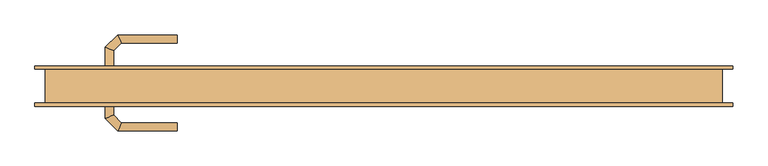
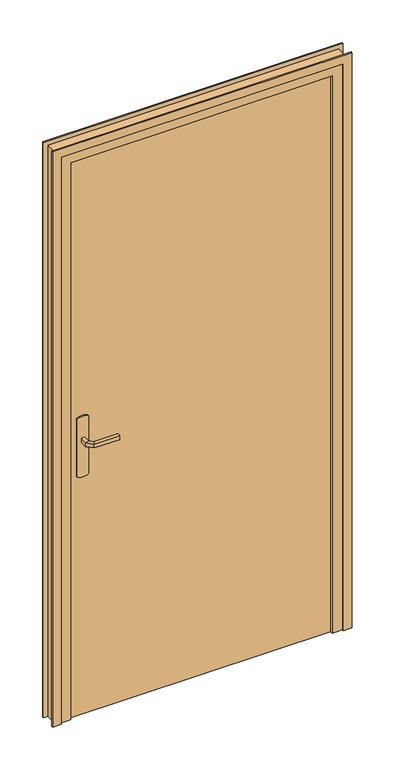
"""IFC4 building model written with IfcOpenShell, lengths in millimetres: door geometry, @_Int. Simple : @_PP (0.93m x 2.04m)."""

import ifcopenshell
import ifcopenshell.guid

model = None  # the IFC model being written
_history = None  # IfcOwnerHistory: only IFC2X3 demands one
_inside = {}  # id of a spatial element -> (the spatial element, [elements in it])
_under = {}  # id of a project, library or spatial element -> (it, [spatial elements below it])
_declared = {}  # id of a project -> (the project, [libraries it declares])
_typed = {}  # id of a type object -> (the type object, [elements of that type])
_made_of = {}  # id of a material, layer set ... -> (it, [elements and type objects made of it])


def new_model(schema):
    """Start an empty IFC model of exactly this schema.

    Asked for "IFC4X3", IfcOpenShell would pick the latest addendum, in which some entities
    have other attributes; the version numbers below select the first issue.
    IFC2X3 requires an IfcOwnerHistory on every rooted entity: one is made here for all.
    """
    global model, _history
    if schema == "IFC4X3":
        model = ifcopenshell.file(schema_version=(4, 3, 0, 0))
    else:
        model = ifcopenshell.file(schema=schema)
    _inside.clear()
    _under.clear()
    _declared.clear()
    _typed.clear()
    _made_of.clear()
    _history = None
    if model.schema == "IFC2X3":
        org = make("IfcOrganization", Name="unknown")
        user = make(
            "IfcPersonAndOrganization",
            ThePerson=make("IfcPerson", FamilyName="unknown"),
            TheOrganization=org,
        )
        app = make(
            "IfcApplication",
            ApplicationDeveloper=org,
            Version="unknown",
            ApplicationFullName="unknown",
            ApplicationIdentifier="unknown",
        )
        _history = make(
            "IfcOwnerHistory",
            OwningUser=user,
            OwningApplication=app,
            ChangeAction="ADDED",
            CreationDate=0,
        )
    return model


def make(cls, **values):
    """One entity of the class cls with the attributes given. An attribute that is None is left unset."""
    return model.create_entity(
        cls, **{name: value for name, value in values.items() if value is not None}
    )


def rooted(cls, **values):
    """An entity with a GlobalId (a new one), such as an element, a storey or a relation."""
    return make(cls, GlobalId=ifcopenshell.guid.new(), OwnerHistory=_history, **values)


def si_unit(unit_type, name, prefix=None):
    """IfcSIUnit, for example si_unit("LENGTHUNIT", "METRE", prefix="MILLI")."""
    return make("IfcSIUnit", UnitType=unit_type, Prefix=prefix, Name=name)


def assignment(units):
    """IfcUnitAssignment: the units of a project."""
    return None if units is None else make("IfcUnitAssignment", Units=units)


def point(xyz):
    """IfcCartesianPoint."""
    return None if xyz is None else make("IfcCartesianPoint", Coordinates=xyz)


def direction(xyz):
    """IfcDirection."""
    return None if xyz is None else make("IfcDirection", DirectionRatios=xyz)


def frame(location, z_axis=None, x_axis=None):
    """IfcAxis2Placement3D, a coordinate frame: its origin and axes. An axis left out is left unset."""
    return make(
        "IfcAxis2Placement3D",
        Location=point(location),
        Axis=direction(z_axis),
        RefDirection=direction(x_axis),
    )


def frame_2d(location, x_axis=None):
    """IfcAxis2Placement2D, a coordinate frame in the plane: its origin and x axis."""
    return make(
        "IfcAxis2Placement2D", Location=point(location), RefDirection=direction(x_axis)
    )


def origin():
    """The frame at (0, 0, 0) with its axes left unset."""
    return frame((0.0, 0.0, 0.0))


def origin_with_axes():
    """The frame at (0, 0, 0) with the z axis (0, 0, 1) and the x axis (1, 0, 0) written out."""
    return frame((0.0, 0.0, 0.0), z_axis=(0.0, 0.0, 1.0), x_axis=(1.0, 0.0, 0.0))


def place(relative_to, where):
    """IfcLocalPlacement: puts the frame where relative to a parent placement (None: the world)."""
    return make(
        "IfcLocalPlacement", PlacementRelTo=relative_to, RelativePlacement=where
    )


def context(
    kind, dimensions, precision=None, world=None, true_north=None, identifier=None
):
    """IfcGeometricRepresentationContext, for example the 3D "Model" context."""
    return make(
        "IfcGeometricRepresentationContext",
        ContextIdentifier=identifier,
        ContextType=kind,
        CoordinateSpaceDimension=dimensions,
        Precision=precision,
        WorldCoordinateSystem=world,
        TrueNorth=true_north,
    )


def project(units=None, contexts=None):
    """IfcProject with its units and contexts."""
    return rooted(
        "IfcProject",
        Name="project",
        RepresentationContexts=contexts,
        UnitsInContext=assignment(units),
    )


def spatial(cls, under=None, at=None, **own):
    """A site, building, storey or space (cls), placed at a placement, below another one or the project."""
    s = rooted(cls, ObjectPlacement=at, **own)
    if under is not None:
        _under.setdefault(under.id(), (under, []))[1].append(s)
    return s


def polyline(points):
    """IfcPolyline through the points."""
    return make("IfcPolyline", Points=[point(p) for p in points])


def circle_curve(where, radius):
    """IfcCircle in the frame where."""
    return make("IfcCircle", Position=where, Radius=radius)


def ellipse_curve(where, semi_axis1, semi_axis2):
    """IfcEllipse in the frame where."""
    return make(
        "IfcEllipse", Position=where, SemiAxis1=semi_axis1, SemiAxis2=semi_axis2
    )


def trimmed(basis, trim1, trim2, sense, master):
    """IfcTrimmedCurve: the piece of a basis curve between two trims."""
    return make(
        "IfcTrimmedCurve",
        BasisCurve=basis,
        Trim1=trim1,
        Trim2=trim2,
        SenseAgreement=sense,
        MasterRepresentation=master,
    )


def segment(curve, same_sense, transition):
    """IfcCompositeCurveSegment."""
    return make(
        "IfcCompositeCurveSegment",
        Transition=transition,
        SameSense=same_sense,
        ParentCurve=curve,
    )


def composite_curve(segments, self_intersect=None):
    """IfcCompositeCurve: segments joined end to end."""
    return make("IfcCompositeCurve", Segments=segments, SelfIntersect=self_intersect)


def outline(outer, holes=None, kind="AREA"):
    """IfcArbitraryClosedProfileDef: a profile drawn as a closed curve; with holes, ...WithVoids."""
    if holes is None:
        return make("IfcArbitraryClosedProfileDef", ProfileType=kind, OuterCurve=outer)
    return make(
        "IfcArbitraryProfileDefWithVoids",
        ProfileType=kind,
        OuterCurve=outer,
        InnerCurves=holes,
    )


def extrude(swept, where, along, depth):
    """IfcExtrudedAreaSolid: the profile swept, set in the frame where, extruded along a direction by depth."""
    return make(
        "IfcExtrudedAreaSolid",
        SweptArea=swept,
        Position=where,
        ExtrudedDirection=direction(along),
        Depth=depth,
    )


def faces_of(points, faces, orient=None, outer=None):
    """IfcFace entities. A face is a list of loops; a loop is a list of indices into points, from 0.

    orient and outer hold one flag for each loop. By default every Orientation is true, the
    first loop of a face is its IfcFaceOuterBound and the others are IfcFaceBound.
    """
    made = []
    for i, loops in enumerate(faces):
        bounds = []
        for j, loop in enumerate(loops):
            is_outer = j == 0 if outer is None else outer[i][j]
            bounds.append(
                make(
                    "IfcFaceOuterBound" if is_outer else "IfcFaceBound",
                    Bound=make("IfcPolyLoop", Polygon=[points[k] for k in loop]),
                    Orientation=True if orient is None else orient[i][j],
                )
            )
        made.append(make("IfcFace", Bounds=bounds))
    return made


def faceted_brep(points, faces, orient=None, outer=None, voids=None):
    """IfcFacetedBrep: a solid bounded by flat faces; with voids (closed shells), ...WithVoids."""
    shared = [point(p) for p in points]
    hull = make("IfcClosedShell", CfsFaces=faces_of(shared, faces, orient, outer))
    if voids is None:
        return make("IfcFacetedBrep", Outer=hull)
    return make(
        "IfcFacetedBrepWithVoids",
        Outer=hull,
        Voids=[
            make(cls, CfsFaces=faces_of(shared, fs, o, b)) for cls, fs, o, b in voids
        ],
    )


def shape(context_of_items, identifier, shape_type, items):
    """IfcShapeRepresentation: the items that make up one representation, for example the "Body"."""
    return make(
        "IfcShapeRepresentation",
        ContextOfItems=context_of_items,
        RepresentationIdentifier=identifier,
        RepresentationType=shape_type,
        Items=items,
    )


def source(mapping_origin, context_of_items, identifier, shape_type, items):
    """IfcRepresentationMap: a shape defined once, which mapped items show again and again."""
    return make(
        "IfcRepresentationMap",
        MappingOrigin=mapping_origin,
        MappedRepresentation=shape(context_of_items, identifier, shape_type, items),
    )


def transform(
    local_origin,
    x_axis=None,
    y_axis=None,
    z_axis=None,
    scale=None,
    scale2=None,
    scale3=None,
    uniform=True,
):
    """IfcCartesianTransformationOperator3D, or its non-uniform kind. x_axis, y_axis, z_axis: its Axis1, 2, 3."""
    if uniform:
        return make(
            "IfcCartesianTransformationOperator3D",
            Axis1=direction(x_axis),
            Axis2=direction(y_axis),
            LocalOrigin=point(local_origin),
            Scale=scale,
            Axis3=direction(z_axis),
        )
    return make(
        "IfcCartesianTransformationOperator3DnonUniform",
        Axis1=direction(x_axis),
        Axis2=direction(y_axis),
        LocalOrigin=point(local_origin),
        Scale=scale,
        Axis3=direction(z_axis),
        Scale2=scale2,
        Scale3=scale3,
    )


def mapped(mapping_source, mapping_target):
    """IfcMappedItem: shows the shape of a source again, moved by a transform."""
    return make(
        "IfcMappedItem", MappingSource=mapping_source, MappingTarget=mapping_target
    )


def made_of(thing, what):
    """Note that an element or type object is made of a material, layer set ...; save() writes the relation."""
    if what is not None:
        _made_of.setdefault(what.id(), (what, []))[1].append(thing)
    return thing


def element(
    cls,
    number,
    at=None,
    inside=None,
    cuts=None,
    type_object=None,
    material=None,
    context=None,
    identifier="Body",
    shape_type=None,
    held_by="IfcProductDefinitionShape",
    body=None,
    shapes=None,
    **own,
):
    """One element of the class cls, such as IfcWall. Its Tag is "e" and its number.

    at: its placement. inside: the storey or other place that contains it. cuts: it is an
    opening in that element (IfcRelVoidsElement). A single representation is given by context,
    identifier, shape_type and body (its items); several are given by shapes. held_by: the class
    of the entity that holds the representations. save() writes the other relations.
    """
    e = rooted(cls, Tag="e%d" % number, ObjectPlacement=at, **own)
    if body is not None:
        shapes = [shape(context, identifier, shape_type, body)]
    if shapes is not None:
        e.Representation = make(held_by, Representations=shapes)
    if inside is not None:
        _inside.setdefault(inside.id(), (inside, []))[1].append(e)
    if cuts is not None:
        rooted(
            "IfcRelVoidsElement", RelatingBuildingElement=cuts, RelatedOpeningElement=e
        )
    if type_object is not None:
        _typed.setdefault(type_object.id(), (type_object, []))[1].append(e)
    return made_of(e, material)


def aggregate(whole, parts):
    """IfcRelAggregates: a whole, such as a stair, and the parts it consists of."""
    return rooted("IfcRelAggregates", RelatingObject=whole, RelatedObjects=parts)


def save(model, path):
    """Write the relations noted so far, then the file.

    IfcRelAggregates (storeys below a building ...), IfcRelContainedInSpatialStructure (elements
    in a storey), IfcRelDefinesByType, IfcRelAssociatesMaterial and IfcRelDeclares: one each for
    every whole, place, type object, material and project.
    """
    for whole, parts in _under.values():
        aggregate(whole, parts)
    for where, things in _inside.values():
        rooted(
            "IfcRelContainedInSpatialStructure",
            RelatedElements=things,
            RelatingStructure=where,
        )
    for kind, things in _typed.values():
        rooted("IfcRelDefinesByType", RelatedObjects=things, RelatingType=kind)
    for what, things in _made_of.values():
        rooted("IfcRelAssociatesMaterial", RelatedObjects=things, RelatingMaterial=what)
    for by, libraries in _declared.values():
        rooted("IfcRelDeclares", RelatingContext=by, RelatedDefinitions=libraries)
    model.write(path)


def plane_surface(at):
    """IfcPlane: the flat surface through the origin of the frame at, square to its z axis."""
    return make("IfcPlane", Position=at)


def cylinder_surface(at, radius):
    """IfcCylindricalSurface: all points at the distance radius from the z axis of the frame at."""
    return make("IfcCylindricalSurface", Position=at, Radius=radius)


def advanced_brep(points, edges, surfaces, faces):
    """IfcAdvancedBrep: a solid bounded by faces that lie on surfaces and meet in shared edges.

    An edge is (start, end): straight between two places in points (the first is 0);
    or (start, end, curve); or (start, end, curve, False) where it runs against its curve.
    A face is (place in surfaces, loops), or (place, loops, False) where it looks against
    its surface's normal. A loop lists edges by number (the first is 1), with a minus sign
    where the edge is run from its end to its start. The first loop is the outer one.
    """
    corners = [point(p) for p in points]
    vertices = [make("IfcVertexPoint", VertexGeometry=c) for c in corners]
    made = []
    for start, end, *more in edges:
        made.append(
            make(
                "IfcEdgeCurve",
                EdgeStart=vertices[start],
                EdgeEnd=vertices[end],
                EdgeGeometry=more[0] if more else make("IfcPolyline", Points=[corners[start], corners[end]]),
                SameSense=more[1] if len(more) > 1 else True,
            )
        )
    hull = []
    for where, loops, *sense in faces:
        bounds = []
        for j, loop in enumerate(loops):
            ring = [make("IfcOrientedEdge", EdgeElement=made[abs(k) - 1], Orientation=k > 0) for k in loop]
            bounds.append(
                make(
                    "IfcFaceOuterBound" if j == 0 else "IfcFaceBound",
                    Bound=make("IfcEdgeLoop", EdgeList=ring),
                    Orientation=True,
                )
            )
        hull.append(make("IfcAdvancedFace", Bounds=bounds, FaceSurface=surfaces[where], SameSense=sense[0] if sense else True))
    return make("IfcAdvancedBrep", Outer=make("IfcClosedShell", CfsFaces=hull))


def door_a878cc18(model_context):
    return source(origin(), model_context, "Body", "SolidModel", [
        extrude(outline(composite_curve([segment(trimmed(circle_curve(frame_2d((904.6410162, -440.0)), 40.0), [point((870.0, -460.0))], [point((870.0, -420.0))], False, "CARTESIAN"), True, "CONTINUOUS"), segment(polyline([(870.0, -420.0), (1080.0, -420.0)]), True, "CONTINUOUS"), segment(trimmed(circle_curve(frame_2d((1045.3589838, -440.0)), 40.0), [point((1080.0, -420.0))], [point((1080.0, -460.0))], False, "CARTESIAN"), True, "CONTINUOUS"), segment(polyline([(1080.0, -460.0), (870.0, -460.0)]), True, "CONTINUOUS")], self_intersect=False)), frame((0.0, 25.0, 0.0), z_axis=(0.0, 1.0, 0.0), x_axis=(0.0, 0.0, 1.0)), (0.0, 0.0, 1.0), 5.0),
        extrude(outline(composite_curve([segment(trimmed(circle_curve(frame_2d((1045.3589838, -440.0)), 40.0), [point((1080.0, -420.0))], [point((1080.0, -460.0))], False, "CARTESIAN"), True, "CONTINUOUS"), segment(polyline([(1080.0, -460.0), (870.0, -460.0)]), True, "CONTINUOUS"), segment(trimmed(circle_curve(frame_2d((904.6410162, -440.0)), 40.0), [point((870.0, -460.0))], [point((870.0, -420.0))], False, "CARTESIAN"), True, "CONTINUOUS"), segment(polyline([(870.0, -420.0), (1080.0, -420.0)]), True, "CONTINUOUS")], self_intersect=False)), frame((0.0, -20.0, 0.0), z_axis=(0.0, 1.0, 0.0), x_axis=(0.0, 0.0, 1.0)), (0.0, 0.0, 1.0), 5.0),
        advanced_brep(
        [(-446.0, 30.0, 1007.0), (-446.0, 30.0, 993.0), (-434.0, 30.0, 993.0), (-434.0, 30.0, 1007.0), (-434.0, 52.680388, 1007.0), (-446.0, 57.6509507, 1007.0), (-434.0, 52.680388, 993.0), (-446.0, 57.6509507, 993.0), (-422.6522273, 64.0281607, 1007.0), (-427.62279, 76.0281607, 1007.0), (-422.6522273, 64.0281607, 993.0), (-427.62279, 76.0281607, 993.0), (-339.9813594, 76.0281607, 1007.0), (-339.9813594, 64.0281607, 1007.0), (-339.9813594, 64.0281607, 993.0), (-339.9813594, 76.0281607, 993.0)],
        [
            (0, 1),
            (1, 2, circle_curve(frame((-440.0, 30.0, 1013.0457722), z_axis=(0.0, -1.0, 0.0), x_axis=(1.0, 0.0, 0.0)), 20.9244589)),
            (2, 3),
            (3, 0, circle_curve(frame((-440.0, 30.0, 986.9542278), z_axis=(0.0, -1.0, 0.0), x_axis=(1.0, 0.0, 0.0)), 20.9244589)),
            (3, 4),
            (4, 5, ellipse_curve(frame((-440.0, 55.1656693, 986.9542278), z_axis=(-0.3826834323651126, -0.9238795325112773, 0.0), x_axis=(0.9238795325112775, -0.38268343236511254, 0.0)), 22.6484711, 20.9244589)),
            (5, 0),
            (2, 6),
            (6, 4),
            (1, 7),
            (7, 6, ellipse_curve(frame((-440.0, 55.1656693, 1013.0457722), z_axis=(-0.3826834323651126, -0.9238795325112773, 0.0), x_axis=(0.9238795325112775, -0.38268343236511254, 0.0)), 22.6484711, 20.9244589)),
            (5, 7),
            (4, 8),
            (8, 9, ellipse_curve(frame((-425.1375086, 70.0281607, 986.9542278), z_axis=(-0.9238795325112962, -0.38268343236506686, 0.0), x_axis=(0.3826834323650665, -0.9238795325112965, 0.0)), 22.6484711, 20.9244589)),
            (9, 5),
            (6, 10),
            (10, 8),
            (7, 11),
            (11, 10, ellipse_curve(frame((-425.1375086, 70.0281607, 1013.0457722), z_axis=(-0.9238795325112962, -0.38268343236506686, 0.0), x_axis=(0.3826834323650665, -0.9238795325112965, 0.0)), 22.6484711, 20.9244589)),
            (9, 11),
            (12, 13, circle_curve(frame((-339.9813594, 70.0281607, 986.9542278), z_axis=(1.0, 0.0, 0.0), x_axis=(0.0, -1.0, 0.0)), 20.9244589)),
            (13, 14),
            (14, 15, circle_curve(frame((-339.9813594, 70.0281607, 1013.0457722), z_axis=(1.0, 0.0, 0.0), x_axis=(0.0, -1.0, 0.0)), 20.9244589)),
            (15, 12),
            (8, 13),
            (12, 9),
            (10, 14),
            (11, 15),
        ],
        [
            plane_surface(frame((-449.2195445, 30.0, 1000.0), z_axis=(0.0, -1.0, 0.0), x_axis=(0.0, 0.0, -1.0))),
            cylinder_surface(frame((-440.0, 30.0, 986.9542278), z_axis=(0.0, -1.0, 0.0), x_axis=(1.0, 0.0, 0.0)), 20.9244589),
            plane_surface(frame((-434.0, 30.0, 1007.0), z_axis=(1.0, 0.0, 0.0), x_axis=(0.0, 1.0, 0.0))),
            cylinder_surface(frame((-440.0, 30.0, 1013.0457722), z_axis=(0.0, -1.0, 0.0), x_axis=(1.0, 0.0, 0.0)), 20.9244589),
            plane_surface(frame((-446.0, 30.0, 993.0), z_axis=(-1.0, 0.0, 0.0), x_axis=(0.0, 1.0, 0.0))),
            cylinder_surface(frame((-440.0, 55.1656693, 986.9542278), z_axis=(-0.7071067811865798, -0.7071067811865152, 0.0), x_axis=(0.7071067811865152, -0.7071067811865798, 0.0)), 20.9244589),
            plane_surface(frame((-434.0, 52.680388, 1007.0), z_axis=(0.7071067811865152, -0.7071067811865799, 0.0), x_axis=(0.7071067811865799, 0.7071067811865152, 0.0))),
            cylinder_surface(frame((-440.0, 55.1656693, 1013.0457722), z_axis=(-0.7071067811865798, -0.7071067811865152, 0.0), x_axis=(0.7071067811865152, -0.7071067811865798, 0.0)), 20.9244589),
            plane_surface(frame((-446.0, 57.6509507, 993.0), z_axis=(-0.7071067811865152, 0.7071067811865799, 0.0), x_axis=(0.7071067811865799, 0.7071067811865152, 0.0))),
            plane_surface(frame((-339.9813594, 70.0281607, 990.7804555), z_axis=(1.0, 0.0, 0.0), x_axis=(0.0, -1.0, 0.0))),
            cylinder_surface(frame((-425.1375086, 70.0281607, 986.9542278), z_axis=(-1.0, 0.0, 0.0), x_axis=(0.0, -1.0, 0.0)), 20.9244589),
            plane_surface(frame((-422.6522273, 64.0281607, 1007.0), z_axis=(0.0, -1.0, 0.0), x_axis=(1.0, 0.0, 0.0))),
            cylinder_surface(frame((-425.1375086, 70.0281607, 1013.0457722), z_axis=(-1.0, 0.0, 0.0), x_axis=(0.0, -1.0, 0.0)), 20.9244589),
            plane_surface(frame((-427.62279, 76.0281607, 993.0), z_axis=(0.0, 1.0, 0.0), x_axis=(1.0, 0.0, 0.0))),
        ],
        [
            (0, [[1, 2, 3, 4]]),
            (1, [[5, 6, 7, -4]]),
            (2, [[8, 9, -5, -3]]),
            (3, [[10, 11, -8, -2]]),
            (4, [[-7, 12, -10, -1]]),
            (5, [[13, 14, 15, -6]]),
            (6, [[16, 17, -13, -9]]),
            (7, [[18, 19, -16, -11]]),
            (8, [[-15, 20, -18, -12]]),
            (9, [[21, 22, 23, 24]]),
            (10, [[25, -21, 26, -14]]),
            (11, [[27, -22, -25, -17]]),
            (12, [[28, -23, -27, -19]]),
            (13, [[-26, -24, -28, -20]]),
        ],
    ),
        advanced_brep(
        [(-434.0, -20.0, 993.0), (-446.0, -20.0, 993.0), (-446.0, -20.0, 1007.0), (-434.0, -20.0, 1007.0), (-434.0, -42.4852045, 1007.0), (-434.0, -42.4852045, 993.0), (-446.0, -47.4557673, 1007.0), (-446.0, -47.4557673, 993.0), (-422.5147186, -53.9704859, 1007.0), (-422.5147186, -53.9704859, 993.0), (-427.4852814, -65.9704859, 1007.0), (-427.4852814, -65.9704859, 993.0), (-339.9542163, -53.9704859, 993.0), (-339.9542163, -53.9704859, 1007.0), (-339.9542163, -65.9704859, 1007.0), (-339.9542163, -65.9704859, 993.0)],
        [
            (0, 1, circle_curve(frame((-440.0, -20.0, 1013.0457722), z_axis=(0.0, 1.0, 0.0), x_axis=(-1.0, 0.0, 0.0)), 20.9244589)),
            (1, 2),
            (2, 3, circle_curve(frame((-440.0, -20.0, 986.9542278), z_axis=(0.0, 1.0, 0.0), x_axis=(-1.0, 0.0, 0.0)), 20.9244589)),
            (3, 0),
            (3, 4),
            (4, 5),
            (5, 0),
            (2, 6),
            (6, 4, ellipse_curve(frame((-440.0, -44.9704859, 986.9542278), z_axis=(-0.3826834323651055, 0.9238795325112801, 0.0), x_axis=(0.9238795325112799, 0.3826834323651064, 0.0)), 22.6484711, 20.9244589)),
            (1, 7),
            (7, 6),
            (5, 7, ellipse_curve(frame((-440.0, -44.9704859, 1013.0457722), z_axis=(-0.3826834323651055, 0.9238795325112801, 0.0), x_axis=(0.9238795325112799, 0.3826834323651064, 0.0)), 22.6484711, 20.9244589)),
            (4, 8),
            (8, 9),
            (9, 5),
            (6, 10),
            (10, 8, ellipse_curve(frame((-425.0, -59.9704859, 986.9542278), z_axis=(-0.9238795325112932, 0.382683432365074, 0.0), x_axis=(0.3826834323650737, 0.9238795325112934, 0.0)), 22.6484711, 20.9244589)),
            (7, 11),
            (11, 10),
            (9, 11, ellipse_curve(frame((-425.0, -59.9704859, 1013.0457722), z_axis=(-0.9238795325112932, 0.382683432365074, 0.0), x_axis=(0.3826834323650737, 0.9238795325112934, 0.0)), 22.6484711, 20.9244589)),
            (12, 13),
            (13, 14, circle_curve(frame((-339.9542163, -59.9704859, 986.9542278), z_axis=(1.0, 0.0, 0.0), x_axis=(0.0, -1.0, 0.0)), 20.9244589)),
            (14, 15),
            (15, 12, circle_curve(frame((-339.9542163, -59.9704859, 1013.0457722), z_axis=(1.0, 0.0, 0.0), x_axis=(0.0, -1.0, 0.0)), 20.9244589)),
            (8, 13),
            (12, 9),
            (10, 14),
            (11, 15),
        ],
        [
            plane_surface(frame((-449.2195445, -20.0, 1000.0), z_axis=(0.0, 1.0, 0.0), x_axis=(0.0, 0.0, 1.0))),
            plane_surface(frame((-434.0, -20.0, 993.0), z_axis=(1.0, 0.0, 0.0), x_axis=(0.0, -1.0, 0.0))),
            cylinder_surface(frame((-440.0, -20.0, 986.9542278), z_axis=(0.0, 1.0, 0.0), x_axis=(-1.0, 0.0, 0.0)), 20.9244589),
            plane_surface(frame((-446.0, -20.0, 1007.0), z_axis=(-1.0, 0.0, 0.0), x_axis=(0.0, -1.0, 0.0))),
            cylinder_surface(frame((-440.0, -20.0, 1013.0457722), z_axis=(0.0, 1.0, 0.0), x_axis=(-1.0, 0.0, 0.0)), 20.9244589),
            plane_surface(frame((-434.0, -42.4852045, 993.0), z_axis=(0.7071067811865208, 0.7071067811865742, 0.0), x_axis=(0.7071067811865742, -0.7071067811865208, 0.0))),
            cylinder_surface(frame((-440.0, -44.9704859, 986.9542278), z_axis=(-0.7071067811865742, 0.7071067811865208, 0.0), x_axis=(-0.7071067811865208, -0.7071067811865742, 0.0)), 20.9244589),
            plane_surface(frame((-446.0, -47.4557673, 1007.0), z_axis=(-0.7071067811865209, -0.7071067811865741, 0.0), x_axis=(0.7071067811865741, -0.7071067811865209, 0.0))),
            cylinder_surface(frame((-440.0, -44.9704859, 1013.0457722), z_axis=(-0.7071067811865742, 0.7071067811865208, 0.0), x_axis=(-0.7071067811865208, -0.7071067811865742, 0.0)), 20.9244589),
            plane_surface(frame((-339.9542163, -59.9704859, 990.7804555), z_axis=(1.0, 0.0, 0.0), x_axis=(0.0, -1.0, 0.0))),
            plane_surface(frame((-422.5147186, -53.9704859, 993.0), z_axis=(0.0, 1.0, 0.0), x_axis=(1.0, 0.0, 0.0))),
            cylinder_surface(frame((-425.0, -59.9704859, 986.9542278), z_axis=(-1.0, 0.0, 0.0), x_axis=(0.0, -1.0, 0.0)), 20.9244589),
            plane_surface(frame((-427.4852814, -65.9704859, 1007.0), z_axis=(0.0, -1.0, 0.0), x_axis=(1.0, 0.0, 0.0))),
            cylinder_surface(frame((-425.0, -59.9704859, 1013.0457722), z_axis=(-1.0, 0.0, 0.0), x_axis=(0.0, -1.0, 0.0)), 20.9244589),
        ],
        [
            (0, [[1, 2, 3, 4]]),
            (1, [[5, 6, 7, -4]]),
            (2, [[8, 9, -5, -3]]),
            (3, [[10, 11, -8, -2]]),
            (4, [[-7, 12, -10, -1]]),
            (5, [[13, 14, 15, -6]]),
            (6, [[16, 17, -13, -9]]),
            (7, [[18, 19, -16, -11]]),
            (8, [[-15, 20, -18, -12]]),
            (9, [[21, 22, 23, 24]]),
            (10, [[25, -21, 26, -14]]),
            (11, [[27, -22, -25, -17]]),
            (12, [[28, -23, -27, -19]]),
            (13, [[-26, -24, -28, -20]]),
        ],
    ),
        extrude(outline(polyline([(-500.0, -15.0), (-500.0, 25.0), (430.0, 25.0), (430.0, -15.0), (-500.0, -15.0)])), origin_with_axes(), (0.0, 0.0, 1.0), 2040.0),
        faceted_brep([(-535.0, 25.0, 0.0), (-500.0, 25.0, 0.0), (-500.0, -15.0, 0.0), (-485.0, -15.0, 0.0), (-485.0, -25.0, 0.0), (-535.0, -25.0, 0.0), (-535.0, -25.0, 2075.0), (-535.0, 25.0, 2075.0), (-485.0, -25.0, 2025.0), (415.0, -25.0, 2025.0), (415.0, -25.0, 0.0), (465.0, -25.0, 0.0), (465.0, -25.0, 2075.0), (-485.0, -15.0, 2025.0), (-500.0, -15.0, 2040.0), (430.0, -15.0, 2040.0), (430.0, -15.0, 0.0), (415.0, -15.0, 0.0), (415.0, -15.0, 2025.0), (-500.0, 25.0, 2040.0), (465.0, 25.0, 2075.0), (465.0, 25.0, 0.0), (430.0, 25.0, 0.0), (430.0, 25.0, 2040.0)], [[[0, 1, 2, 3, 4, 5]], [[5, 6, 7, 0]], [[4, 8, 9, 10, 11, 12, 6, 5]], [[3, 13, 8, 4]], [[2, 14, 15, 16, 17, 18, 13, 3]], [[1, 19, 14, 2]], [[0, 7, 20, 21, 22, 23, 19, 1]], [[12, 11, 21, 20]], [[21, 11, 10, 17, 16, 22]], [[18, 17, 10, 9]], [[23, 22, 16, 15]], [[6, 12, 20, 7]], [[13, 18, 9, 8]], [[19, 23, 15, 14]]]),
        extrude(outline(polyline([(0.0, -520.0), (2060.0, -520.0), (2060.0, 450.0), (0.0, 450.0), (0.0, 480.0), (2090.0, 480.0), (2090.0, -550.0), (0.0, -550.0), (0.0, -520.0)])), frame((0.0, 25.0, 0.0), z_axis=(0.0, 1.0, 0.0), x_axis=(0.0, 0.0, 1.0)), (0.0, 0.0, 1.0), 5.0),
        extrude(outline(polyline([(0.0, -520.0), (2060.0, -520.0), (2060.0, 450.0), (0.0, 450.0), (0.0, 480.0), (2090.0, 480.0), (2090.0, -550.0), (0.0, -550.0), (0.0, -520.0)])), frame((0.0, -30.0, 0.0), z_axis=(0.0, 1.0, 0.0), x_axis=(0.0, 0.0, 1.0)), (0.0, 0.0, 1.0), 5.0),
    ])


if __name__ == "__main__":
    model = new_model("IFC4")
    model_context = context("Model", 3, world=origin())
    ifc_project = project(units=[si_unit("LENGTHUNIT", "METRE", prefix="MILLI")], contexts=[model_context])
    site = spatial("IfcSite", under=ifc_project)
    building = spatial("IfcBuilding", under=site)
    placement = place(None, origin())
    door_shape = door_a878cc18(model_context)
    element("IfcDoor", 1, ObjectType="@_Int. Simple : @_PP (0.93m x 2.04m)", at=placement, inside=building, context=model_context, shape_type="MappedRepresentation", body=[
        mapped(door_shape, transform((0.0, 0.0, 0.0), x_axis=(1.0, 0.0, 0.0), y_axis=(0.0, 1.0, 0.0), z_axis=(0.0, 0.0, 1.0))),
    ])
    save(model, "model.ifc")
